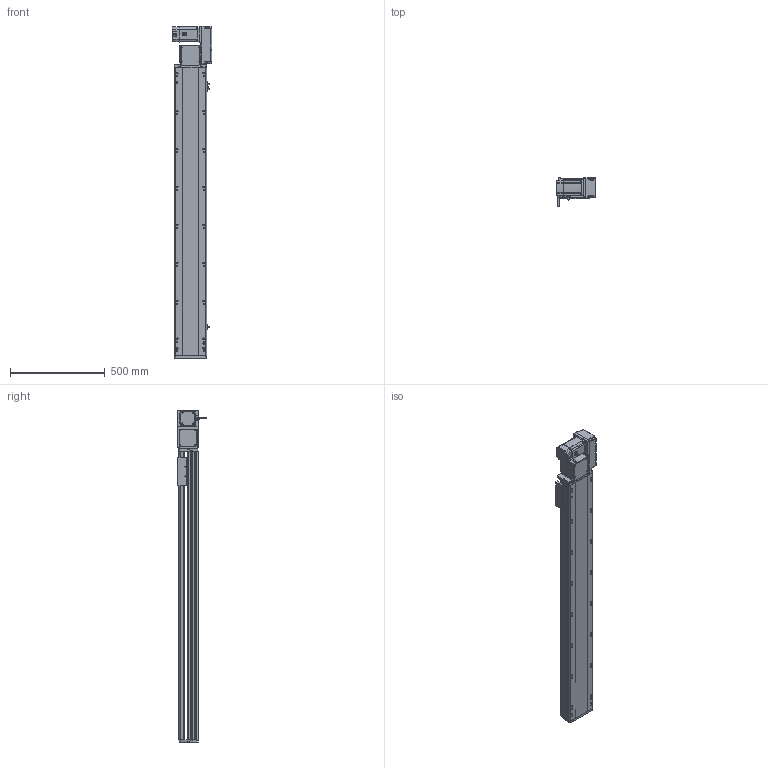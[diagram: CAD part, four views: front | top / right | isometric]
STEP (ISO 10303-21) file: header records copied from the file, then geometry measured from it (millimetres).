
FILE_DESCRIPTION (( 'STEP AP214' ), '1' );
FILE_NAME ('RTB17S-XX-1250-R-M75-C4.STEP', '2025-12-12T01:37:00', ( '' ), ( '' ), 'SwSTEP 2.0', 'SolidWorks 2018', '' );
FILE_SCHEMA (( 'AUTOMOTIVE_DESIGN' ));
Length unit declared in the file: millimetre
Products named in the file (15): RTB17S-L-007奻裔^RTB17S-XX-XX-R-M75-C4; RTB17S-L-004-賑釱^RTB17S-賑釱_RTB17S-XX-XX-R-M75-C4; RTB17S-L-014-T20-P75--々湍釱^RTB17S-R-々湍釱蚾饜-750W_RTB17S-XX-XX-R-M75-C4; RTB17S-賑釱^RTB17S-XX-XX-R-M75-C4; RTB17S-XX-1250-R-M75-C4; RTB17S-L-001-耜醱啣^RTB17S-XX-XX-R-M75-C4; RTB22S-GY-005P^RTB17S-R-々湍釱蚾饜-750W_RTB17S-XX-XX-R-M75-C4; 750W萇儂^RTB17S-XX-XX-R-M75-C4; RTB17S-R-々湍釱蚾饜-750W^RTB17S-XX-XX-R-M75-C4; RTH13-BL-012覜茼え俋离^RTB17S-賑釱_RTB17S-XX-XX-R-M75-C4; EE672^RTB17S-XX-XX-R-M75-C4; RTB22S-GY-018P^RTB17S-R-々湍釱蚾饜-750W_RTB17S-XX-XX-R-M75-C4; RTB22S-GY-017P^RTB17S-R-々湍釱蚾饜-750W_RTB17S-XX-XX-R-M75-C4; RTB22S-GY-008-M75--萇儂啣^RTB17S-R-々湍釱蚾饜-750W_RTB17S-XX-XX-R-M75-C4; RTB17-R-011菁釱^RTB17S-XX-XX-R-M75-C4
Assembly tree (17 placements, depth 3):
  RTB17S-XX-1250-R-M75-C4
    RTB17-R-011菁釱^RTB17S-XX-XX-R-M75-C4
    EE672^RTB17S-XX-XX-R-M75-C4  x3
    RTB17S-L-001-耜醱啣^RTB17S-XX-XX-R-M75-C4
    RTB17S-賑釱^RTB17S-XX-XX-R-M75-C4
      RTB17S-L-004-賑釱^RTB17S-賑釱_RTB17S-XX-XX-R-M75-C4
      RTH13-BL-012覜茼え俋离^RTB17S-賑釱_RTB17S-XX-XX-R-M75-C4
    RTB17S-L-007奻裔^RTB17S-XX-XX-R-M75-C4
    750W萇儂^RTB17S-XX-XX-R-M75-C4
    RTB17S-R-々湍釱蚾饜-750W^RTB17S-XX-XX-R-M75-C4
      RTB17S-L-014-T20-P75--々湍釱^RTB17S-R-々湍釱蚾饜-750W_RTB17S-XX-XX-R-M75-C4
      RTB22S-GY-005P^RTB17S-R-々湍釱蚾饜-750W_RTB17S-XX-XX-R-M75-C4
      RTB22S-GY-017P^RTB17S-R-々湍釱蚾饜-750W_RTB17S-XX-XX-R-M75-C4  x2
      RTB22S-GY-008-M75--萇儂啣^RTB17S-R-々湍釱蚾饜-750W_RTB17S-XX-XX-R-M75-C4
      RTB22S-GY-018P^RTB17S-R-々湍釱蚾饜-750W_RTB17S-XX-XX-R-M75-C4
Bounding box: 207.4 x 152.7 x 1749 mm (x, y, z)
Volume: 13758686.6 mm3; surface area: 2379800 mm2
Topology: 17 solids, 17 shells, 2121 faces, 5890 edges, 3806 vertices
Faces by surface type: plane 974, cylinder 731, bspline 294, cone 110, sphere 8, torus 4
Entity records: 59638 total; most frequent: CARTESIAN_POINT 17554, ORIENTED_EDGE 8624, DIRECTION 8042, EDGE_CURVE 4312, AXIS2_PLACEMENT_3D 2826, VERTEX_POINT 2810, VECTOR 2390, LINE 2390
